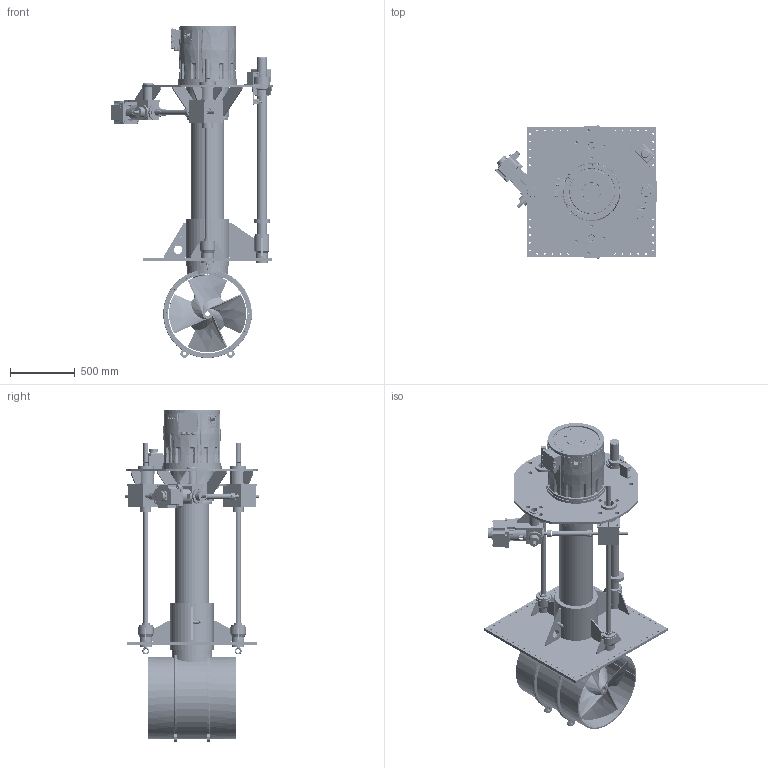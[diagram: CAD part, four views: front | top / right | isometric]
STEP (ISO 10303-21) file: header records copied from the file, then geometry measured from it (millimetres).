
FILE_DESCRIPTION(/* description */ (''),/* implementation_level */ '2;1');
FILE_NAME(/* name */ 'Q:\THRUSTERS\THRUSTER SALES & SUPPORT DOCS\THRUSTER Sales\E-V\E-0600-V\E-0600-V-RETRACTED.stp',/* time_stamp */ '2021-02-03T16:51:08+00:00',/* author */ ('Barney.Webborn'),/* organization */ (''),/* preprocessor_version */ 'ST-DEVELOPER v17.2',/* originating_system */ 'Autodesk Inventor 2019',/* authorisation */ '');
FILE_SCHEMA (('AUTOMOTIVE_DESIGN { 1 0 10303 214 3 1 1 }'));
Products named in the file (1): E-0600-V_Shrinkwrap_1
Bounding box: 1256.15 x 1041.57 x 2563.3 mm (x, y, z)
Volume: 166102041.3 mm3; surface area: 16410473.1 mm2
Topology: 6 solids, 6 shells, 7950 faces, 21534 edges, 13796 vertices
Faces by surface type: plane 3488, cylinder 1926, bspline 1372, cone 636, torus 420, sphere 108
Full cylindrical faces by diameter (mm): 3 x6, 4.95 x4, 5.5 x4, 7 x8, 7.2 x2, 8 x9, 8.376 x1, 8.5 x11, 9 x4, 9.43 x7, 10 x12, 12 x21, 12.4 x12, 12.5 x24, 13 x101, 13.44 x1, 13.5 x4, 13.9 x3, 14 x2, 14.287 x1, 14.3 x1, 14.376 x2, 14.5 x1, 15 x15, 15.24 x12, 15.25 x4, 15.3 x1, 16 x15, 16.9 x2, 17 x2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
Entity records: 342361 total; most frequent: CARTESIAN_POINT 139787, ORIENTED_EDGE 42672, DIRECTION 38184, EDGE_CURVE 21336, AXIS2_PLACEMENT_3D 14124, VERTEX_POINT 13796, LINE 9936, VECTOR 9936
